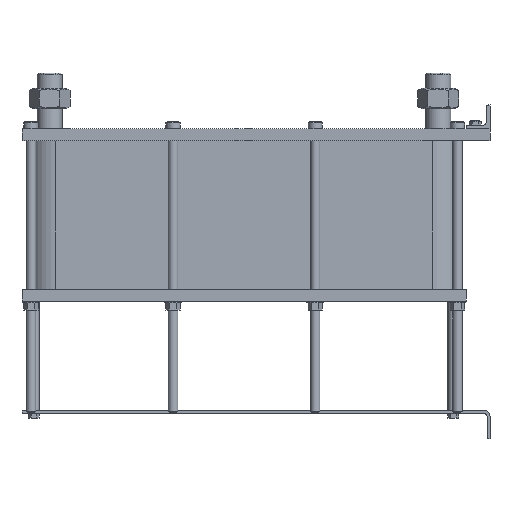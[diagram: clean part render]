
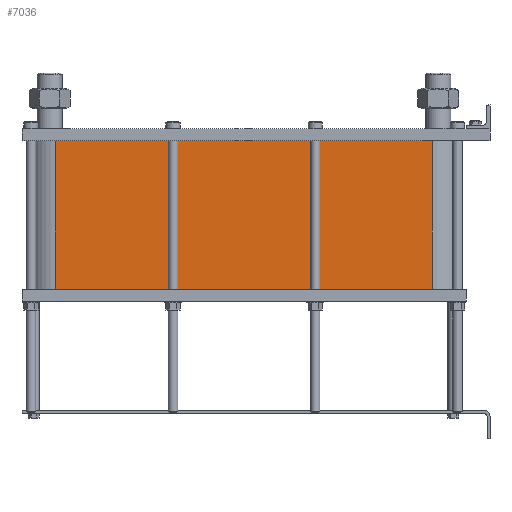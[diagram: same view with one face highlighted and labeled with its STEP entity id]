
A CAD part, left-side view. The second image highlights one B-rep face of the part: STEP entity #7036.
In plain terms, the highlighted planar face has unit normal (-1, 0, 0).
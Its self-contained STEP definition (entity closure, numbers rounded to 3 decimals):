
#999=LINE('',#15640,#1553);
#1031=LINE('',#15723,#1585);
#1032=LINE('',#15726,#1586);
#1033=LINE('',#15727,#1587);
#1553=VECTOR('',#9658,10.);
#1585=VECTOR('',#9736,10.);
#1586=VECTOR('',#9741,10.);
#1587=VECTOR('',#9742,10.);
#2117=FACE_OUTER_BOUND('',#2671,.T.);
#2671=EDGE_LOOP('',(#6246,#6247,#6248,#6249));
#3527=VERTEX_POINT('',#15634);
#3529=VERTEX_POINT('',#15638);
#3556=VERTEX_POINT('',#15720);
#3557=VERTEX_POINT('',#15722);
#4425=EDGE_CURVE('',#3529,#3527,#999,.T.);
#4466=EDGE_CURVE('',#3557,#3556,#1031,.T.);
#4468=EDGE_CURVE('',#3527,#3556,#1032,.T.);
#4469=EDGE_CURVE('',#3557,#3529,#1033,.T.);
#6246=ORIENTED_EDGE('',*,*,#4468,.F.);
#6247=ORIENTED_EDGE('',*,*,#4425,.F.);
#6248=ORIENTED_EDGE('',*,*,#4469,.F.);
#6249=ORIENTED_EDGE('',*,*,#4466,.T.);
#6608=PLANE('',#7812);
#7036=ADVANCED_FACE('',(#2117),#6608,.T.);
#7812=AXIS2_PLACEMENT_3D('',#15725,#9739,#9740);
#9658=DIRECTION('',(0.,0.,-1.));
#9736=DIRECTION('',(0.,0.,-1.));
#9739=DIRECTION('center_axis',(-1.,0.,0.));
#9740=DIRECTION('ref_axis',(0.,1.,0.));
#9741=DIRECTION('',(0.,1.,0.));
#9742=DIRECTION('',(0.,-1.,0.));
#15634=CARTESIAN_POINT('',(-72.,97.5,-251.1));
#15638=CARTESIAN_POINT('',(-72.,97.5,0.));
#15640=CARTESIAN_POINT('',(-72.,97.5,0.));
#15720=CARTESIAN_POINT('',(-72.,733.5,-251.1));
#15722=CARTESIAN_POINT('',(-72.,733.5,0.));
#15723=CARTESIAN_POINT('',(-72.,733.5,0.));
#15725=CARTESIAN_POINT('Origin',(-72.,97.5,0.));
#15726=CARTESIAN_POINT('',(-72.,256.5,-251.1));
#15727=CARTESIAN_POINT('',(-72.,733.5,0.));
